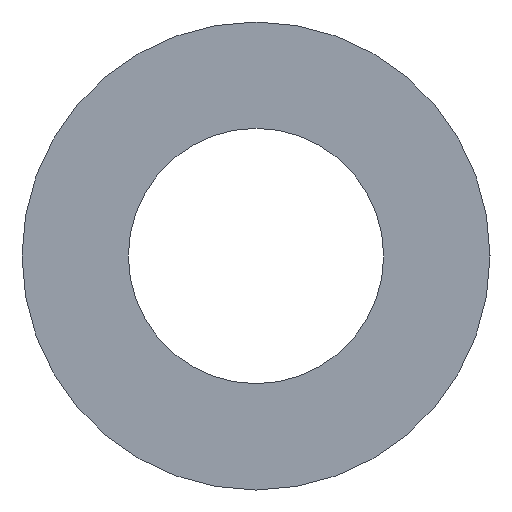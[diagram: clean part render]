
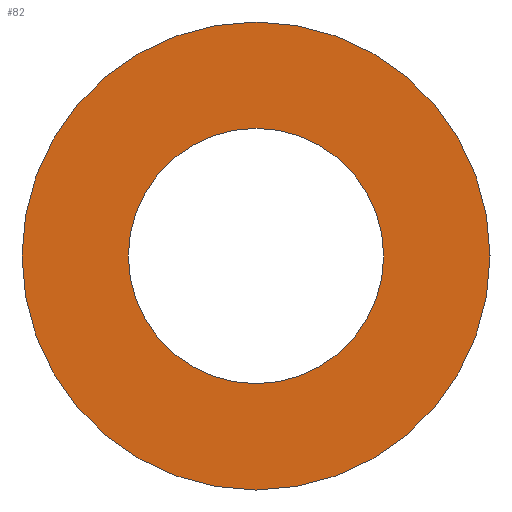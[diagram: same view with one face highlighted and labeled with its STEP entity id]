
A CAD part, left-side view. The second image highlights one B-rep face of the part: STEP entity #82.
In plain terms, the highlighted planar face has unit normal (-1, 0, 0).
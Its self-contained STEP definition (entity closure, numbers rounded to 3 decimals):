
#82 = ADVANCED_FACE( '', ( #109, #110 ), #111, .T. );
#109 = FACE_BOUND( '', #145, .T. );
#110 = FACE_OUTER_BOUND( '', #146, .T. );
#111 = PLANE( '', #147 );
#145 = EDGE_LOOP( '', ( #195 ) );
#146 = EDGE_LOOP( '', ( #196 ) );
#147 = AXIS2_PLACEMENT_3D( '', #197, #198, #199 );
#195 = ORIENTED_EDGE( '', *, *, #229, .T. );
#196 = ORIENTED_EDGE( '', *, *, #228, .F. );
#197 = CARTESIAN_POINT( '', ( 0., 11., 0. ) );
#198 = DIRECTION( '', ( -1., 0., 0. ) );
#199 = DIRECTION( '', ( 0., 0., 1. ) );
#228 = EDGE_CURVE( '', #248, #248, #249, .T. );
#229 = EDGE_CURVE( '', #250, #250, #251, .T. );
#248 = VERTEX_POINT( '', #272 );
#249 = CIRCLE( '', #273, 11. );
#250 = VERTEX_POINT( '', #274 );
#251 = CIRCLE( '', #275, 6. );
#272 = CARTESIAN_POINT( '', ( 0., 0., -11. ) );
#273 = AXIS2_PLACEMENT_3D( '', #304, #305, #306 );
#274 = CARTESIAN_POINT( '', ( 0., 0., -6. ) );
#275 = AXIS2_PLACEMENT_3D( '', #307, #308, #309 );
#304 = CARTESIAN_POINT( '', ( 0., 0., 0. ) );
#305 = DIRECTION( '', ( 1., 0., 0. ) );
#306 = DIRECTION( '', ( 0., 0., -1. ) );
#307 = CARTESIAN_POINT( '', ( 0., 0., 0. ) );
#308 = DIRECTION( '', ( 1., 0., 0. ) );
#309 = DIRECTION( '', ( 0., 0., -1. ) );
